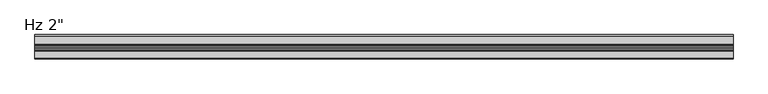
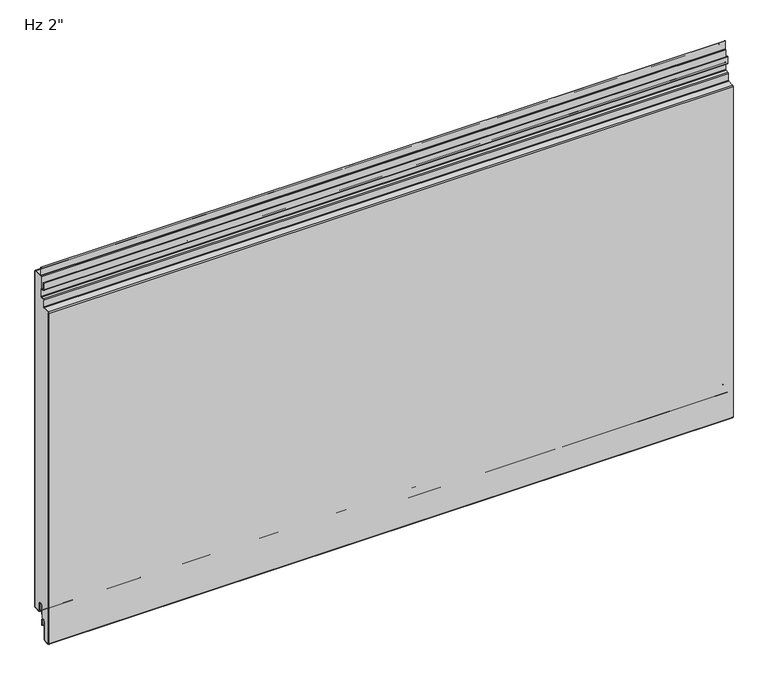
"""IFC4 building model written with IfcOpenShell, lengths in millimetres: plate geometry."""

from ifc_helpers import new_model, si_unit, point, frame, frame_2d, origin, place, context, project, spatial, polyline, circle_curve, ellipse_curve, trimmed, segment, composite_curve, outline, extrude, source, transform, mapped, element, save
from ifc_brep_helpers import plane_surface, cylinder_surface, revolved_surface, extruded_surface, advanced_brep


def plate_48900397(model_context):
    return source(origin(), model_context, "Body", "SolidModel", [
        extrude(outline(composite_curve([segment(polyline([(-22.8125, 717.1620957), (-22.8125, 760.40625), (-2.38125, 760.40625)]), True, "CONTINUOUS"), segment(trimmed(circle_curve(frame_2d((-2.38125, 759.025)), 1.38125), [point((-2.38125, 760.40625))], [point((-1.0, 759.025))], False, "CARTESIAN"), True, "CONTINUOUS"), segment(polyline([(-1.0, 759.025), (-1.0, 3.375)]), True, "CONTINUOUS"), segment(trimmed(circle_curve(frame_2d((-2.38125, 3.375)), 1.38125), [point((-1.0, 3.375))], [point((-2.38125, 1.99375))], False, "CARTESIAN"), True, "CONTINUOUS"), segment(polyline([(-2.38125, 1.99375), (-15.08125, 1.99375)]), True, "CONTINUOUS"), segment(trimmed(circle_curve(frame_2d((-15.08125, 3.375)), 1.38125), [point((-15.08125, 1.99375))], [point((-16.4625, 3.375))], False, "CARTESIAN"), True, "CONTINUOUS"), segment(polyline([(-16.4625, 3.375), (-16.4625, 19.25)]), True, "CONTINUOUS"), segment(trimmed(circle_curve(frame_2d((-21.43125, 19.25)), 4.96875), [point((-16.4625, 19.25))], [point((-26.4, 19.25))], True, "CARTESIAN"), True, "CONTINUOUS"), segment(polyline([(-26.4, 19.25), (-26.4, -6.7375), (-30.95625, -6.7375)]), True, "CONTINUOUS"), segment(trimmed(circle_curve(frame_2d((-30.95625, -11.70625)), 4.96875), [point((-30.95625, -6.7375))], [point((-35.925, -11.70625))], True, "CARTESIAN"), True, "CONTINUOUS"), segment(polyline([(-35.925, -11.70625), (-35.925, -49.8895546)]), True, "CONTINUOUS"), segment(trimmed(circle_curve(frame_2d((-37.30625, -49.8895546)), 1.38125), [point((-35.925, -49.8895546))], [point((-37.233961, -51.2689117))], False, "CARTESIAN"), True, "CONTINUOUS"), segment(polyline([(-37.233961, -51.2689117), (-48.346461, -51.8512931)]), True, "CONTINUOUS"), segment(trimmed(circle_curve(frame_2d((-48.41875, -50.4719361)), 1.38125), [point((-48.346461, -51.8512931))], [point((-49.8, -50.4719361))], False, "CARTESIAN"), True, "CONTINUOUS"), segment(polyline([(-49.8, -50.4719361), (-49.8, 694.0447607)]), True, "CONTINUOUS"), segment(trimmed(circle_curve(frame_2d((-48.41875, 694.0447607)), 1.38125), [point((-49.8, 694.0447607))], [point((-48.491039, 695.4241177))], False, "CARTESIAN"), True, "CONTINUOUS"), segment(polyline([(-48.491039, 695.4241177), (-34.7895807, 696.1421807)]), True, "CONTINUOUS"), segment(trimmed(circle_curve(frame_2d((-34.925, 698.7261347)), 2.5875), [point((-34.7895807, 696.1421807))], [point((-32.3375, 698.7261347))], True, "CARTESIAN"), True, "CONTINUOUS"), segment(polyline([(-32.3375, 698.7261347), (-32.3375, 712.8967085)]), True, "CONTINUOUS"), segment(trimmed(circle_curve(frame_2d((-30.95625, 712.8967085)), 1.38125), [point((-32.3375, 712.8967085))], [point((-31.028539, 714.2760655))], False, "CARTESIAN"), True, "CONTINUOUS"), segment(polyline([(-31.028539, 714.2760655), (-25.2645807, 714.5781418)]), True, "CONTINUOUS"), segment(trimmed(circle_curve(frame_2d((-25.4, 717.1620957)), 2.5875), [point((-25.2645807, 714.5781418))], [point((-22.8125, 717.1620957))], True, "CARTESIAN"), True, "CONTINUOUS")], self_intersect=False)), frame((-730.0, 0.0, 0.0), z_axis=(1.0, 0.0, 0.0), x_axis=(0.0, 1.0, 0.0)), (0.0, 0.0, 1.0), 1460.0),
        extrude(outline(composite_curve([segment(polyline([(-25.4, 0.99375), (-26.4, 0.99375), (-26.4, 19.25)]), True, "CONTINUOUS"), segment(trimmed(circle_curve(frame_2d((-21.43125, 19.25)), 4.96875), [point((-26.4, 19.25))], [point((-16.4625, 19.25))], False, "CARTESIAN"), True, "CONTINUOUS"), segment(polyline([(-16.4625, 19.25), (-16.4625, 3.375)]), True, "CONTINUOUS"), segment(trimmed(circle_curve(frame_2d((-15.08125, 3.375)), 1.38125), [point((-16.4625, 3.375))], [point((-15.08125, 1.99375))], True, "CARTESIAN"), True, "CONTINUOUS"), segment(polyline([(-15.08125, 1.99375), (-2.38125, 1.99375)]), True, "CONTINUOUS"), segment(trimmed(circle_curve(frame_2d((-2.38125, 3.375)), 1.38125), [point((-2.38125, 1.99375))], [point((-1.0, 3.375))], True, "CARTESIAN"), True, "CONTINUOUS"), segment(polyline([(-1.0, 3.375), (-1.0, 759.025)]), True, "CONTINUOUS"), segment(trimmed(circle_curve(frame_2d((-2.38125, 759.025)), 1.38125), [point((-1.0, 759.025))], [point((-2.38125, 760.40625))], True, "CARTESIAN"), True, "CONTINUOUS"), segment(polyline([(-2.38125, 760.40625), (-19.446875, 760.40625)]), True, "CONTINUOUS"), segment(trimmed(circle_curve(frame_2d((-19.446875, 762.99375)), 2.5875), [point((-19.446875, 760.40625))], [point((-22.034375, 762.99375))], False, "CARTESIAN"), True, "CONTINUOUS"), segment(polyline([(-22.034375, 762.99375), (-22.034375, 780.45625), (-21.034375, 780.45625), (-21.034375, 762.99375)]), True, "CONTINUOUS"), segment(trimmed(circle_curve(frame_2d((-19.446875, 762.99375)), 1.5875), [point((-21.034375, 762.99375))], [point((-19.446875, 761.40625))], True, "CARTESIAN"), True, "CONTINUOUS"), segment(polyline([(-19.446875, 761.40625), (-2.38125, 761.40625)]), True, "CONTINUOUS"), segment(trimmed(circle_curve(frame_2d((-2.38125, 759.025)), 2.38125), [point((-2.38125, 761.40625))], [point((0.0, 759.025))], False, "CARTESIAN"), True, "CONTINUOUS"), segment(polyline([(0.0, 759.025), (0.0, 3.375)]), True, "CONTINUOUS"), segment(trimmed(circle_curve(frame_2d((-2.38125, 3.375)), 2.38125), [point((0.0, 3.375))], [point((-2.38125, 0.99375))], False, "CARTESIAN"), True, "CONTINUOUS"), segment(polyline([(-2.38125, 0.99375), (-15.08125, 0.99375)]), True, "CONTINUOUS"), segment(trimmed(circle_curve(frame_2d((-15.08125, 3.375)), 2.38125), [point((-15.08125, 0.99375))], [point((-17.4625, 3.375))], False, "CARTESIAN"), True, "CONTINUOUS"), segment(polyline([(-17.4625, 3.375), (-17.4625, 19.25)]), True, "CONTINUOUS"), segment(trimmed(circle_curve(frame_2d((-21.43125, 19.25)), 3.96875), [point((-17.4625, 19.25))], [point((-25.4, 19.25))], True, "CARTESIAN"), True, "CONTINUOUS"), segment(polyline([(-25.4, 19.25), (-25.4, 0.99375)]), True, "CONTINUOUS")], self_intersect=False)), frame((-730.0, 0.0, 0.0), z_axis=(1.0, 0.0, 0.0), x_axis=(0.0, 1.0, 0.0)), (0.0, 0.0, 1.0), 1460.0),
        advanced_brep(
        [(-730.0, -25.4, -23.0314549), (-730.0, -26.9875, -23.0314549), (-730.0, -26.9875, -11.7205174), (-730.0, -34.925, -11.7205174), (-730.0, -34.925, -49.9038221), (-730.0, -37.181625, -52.2818086), (-730.0, -48.294125, -52.8641901), (-730.0, -50.8, -50.4862035), (-730.0, -50.8, 694.0447607), (-730.0, -48.543375, 696.4227473), (-730.0, -34.8419167, 697.1408103), (-730.0, -33.3375, 698.7261347), (-730.0, -33.3375, 712.8824411), (-730.0, -31.080875, 715.2604276), (-730.0, -25.3169167, 715.5625039), (-730.0, -23.8125, 717.1478283), (-730.0, -23.8125, 732.0232326), (-730.0, -25.4, 733.6107326), (-730.0, -29.5671875, 733.6107326), (-730.0, -31.9484375, 735.9919826), (-730.0, -31.9484375, 750.4836032), (-730.0, -30.1546875, 750.4836032), (-730.0, -30.1546875, 740.7544826), (-730.0, -30.9484375, 740.7544826), (-730.0, -30.9484375, 735.9919826), (-730.0, -29.5671875, 734.6107326), (-730.0, -25.4, 734.6107326), (-730.0, -22.8125, 732.0232326), (-730.0, -22.8125, 717.1478283), (-730.0, -25.2645807, 714.5638744), (-730.0, -31.028539, 714.2617981), (-730.0, -32.3375, 712.8824411), (-730.0, -32.3375, 698.7261347), (-730.0, -34.7895807, 696.1421807), (-730.0, -48.491039, 695.4241177), (-730.0, -49.8, 694.0447607), (-730.0, -49.8, -50.4862035), (-730.0, -48.346461, -51.8655606), (-730.0, -37.233961, -51.2831791), (-730.0, -35.925, -49.9038221), (-730.0, -35.925, -11.7205174), (-730.0, -25.9875, -11.7205174), (-730.0, -26.19375, -13.3080174), (-730.0, -25.4, -13.3080174), (730.0, -25.4, -23.0314549), (730.0, -25.4, -13.3080174), (730.0, -26.19375, -13.3080174), (730.0, -25.9875, -11.7205174), (730.0, -35.925, -11.7205174), (730.0, -35.925, -49.9038221), (730.0, -37.233961, -51.2831791), (730.0, -48.346461, -51.8655606), (730.0, -49.8, -50.4862035), (730.0, -49.8, 694.0447607), (730.0, -48.491039, 695.4241177), (730.0, -34.7895807, 696.1421807), (730.0, -32.3375, 698.7261347), (730.0, -32.3375, 712.8824411), (730.0, -31.028539, 714.2617981), (730.0, -25.2645807, 714.5638744), (730.0, -22.8125, 717.1478283), (730.0, -22.8125, 732.0232326), (730.0, -25.4, 734.6107326), (730.0, -29.5671875, 734.6107326), (730.0, -30.9484375, 735.9919826), (730.0, -30.9484375, 740.7544826), (730.0, -30.1546875, 740.7544826), (730.0, -30.1546875, 750.4836032), (730.0, -31.9484375, 750.4836032), (730.0, -31.9484375, 735.9919826), (730.0, -29.5671875, 733.6107326), (730.0, -25.4, 733.6107326), (730.0, -23.8125, 732.0232326), (730.0, -23.8125, 717.1478283), (730.0, -25.3169167, 715.5625039), (730.0, -31.080875, 715.2604276), (730.0, -33.3375, 712.8824411), (730.0, -33.3375, 698.7261347), (730.0, -34.8419167, 697.1408103), (730.0, -48.543375, 696.4227473), (730.0, -50.8, 694.0447607), (730.0, -50.8, -50.4862035), (730.0, -48.294125, -52.8641901), (730.0, -37.181625, -52.2818086), (730.0, -34.925, -49.9038221), (730.0, -34.925, -11.7205174), (730.0, -26.9875, -11.7205174), (730.0, -26.9875, -23.0314549)],
        [
            (0, 1, circle_curve(frame((-730.0, -26.19375, -23.0314549), z_axis=(-1.0, 0.0, 0.0), x_axis=(0.0, 0.0, -1.0)), 0.79375)),
            (1, 2),
            (2, 3, circle_curve(frame((-730.0, -30.95625, -11.7205174), z_axis=(1.0, 0.0, 0.0), x_axis=(0.0, 0.0, -1.0)), 3.96875)),
            (3, 4),
            (4, 5, circle_curve(frame((-730.0, -37.30625, -49.9038221), z_axis=(-1.0, 0.0, 0.0), x_axis=(0.0, 0.0, -1.0)), 2.38125)),
            (5, 6),
            (6, 7, circle_curve(frame((-730.0, -48.41875, -50.4862035), z_axis=(-1.0, 0.0, 0.0), x_axis=(0.0, 0.0, -1.0)), 2.38125)),
            (7, 8),
            (8, 9, circle_curve(frame((-730.0, -48.41875, 694.0447607), z_axis=(-1.0, 0.0, 0.0), x_axis=(0.0, 0.0, -1.0)), 2.38125)),
            (9, 10),
            (10, 11, circle_curve(frame((-730.0, -34.925, 698.7261347), z_axis=(1.0, 0.0, 0.0), x_axis=(0.0, 0.0, -1.0)), 1.5875)),
            (11, 12),
            (12, 13, circle_curve(frame((-730.0, -30.95625, 712.8824411), z_axis=(-1.0, 0.0, 0.0), x_axis=(0.0, 0.0, -1.0)), 2.38125)),
            (13, 14),
            (14, 15, circle_curve(frame((-730.0, -25.4, 717.1478283), z_axis=(1.0, 0.0, 0.0), x_axis=(0.0, 0.0, -1.0)), 1.5875)),
            (15, 16),
            (16, 17, circle_curve(frame((-730.0, -25.4, 732.0232326), z_axis=(1.0, 0.0, 0.0), x_axis=(0.0, 0.0, -1.0)), 1.5875)),
            (17, 18),
            (18, 19, circle_curve(frame((-730.0, -29.5671875, 735.9919826), z_axis=(-1.0, 0.0, 0.0), x_axis=(0.0, 0.0, -1.0)), 2.38125)),
            (19, 20),
            (20, 21, ellipse_curve(frame((-730.0, -31.0515625, 750.4836032), z_axis=(-1.0, 0.0, 0.0), x_axis=(0.0, 1.0, 0.0)), 0.896875, 0.7852275)),
            (21, 22),
            (22, 23),
            (23, 24),
            (24, 25, circle_curve(frame((-730.0, -29.5671875, 735.9919826), z_axis=(1.0, 0.0, 0.0), x_axis=(0.0, 0.0, -1.0)), 1.38125)),
            (25, 26),
            (26, 27, circle_curve(frame((-730.0, -25.4, 732.0232326), z_axis=(-1.0, 0.0, 0.0), x_axis=(0.0, 0.0, -1.0)), 2.5875)),
            (27, 28),
            (28, 29, circle_curve(frame((-730.0, -25.4, 717.1478283), z_axis=(-1.0, 0.0, 0.0), x_axis=(0.0, 0.0, -1.0)), 2.5875)),
            (29, 30),
            (30, 31, circle_curve(frame((-730.0, -30.95625, 712.8824411), z_axis=(1.0, 0.0, 0.0), x_axis=(0.0, 0.0, -1.0)), 1.38125)),
            (31, 32),
            (32, 33, circle_curve(frame((-730.0, -34.925, 698.7261347), z_axis=(-1.0, 0.0, 0.0), x_axis=(0.0, 0.0, -1.0)), 2.5875)),
            (33, 34),
            (34, 35, circle_curve(frame((-730.0, -48.41875, 694.0447607), z_axis=(1.0, 0.0, 0.0), x_axis=(0.0, 0.0, -1.0)), 1.38125)),
            (35, 36),
            (36, 37, circle_curve(frame((-730.0, -48.41875, -50.4862035), z_axis=(1.0, 0.0, 0.0), x_axis=(0.0, 0.0, -1.0)), 1.38125)),
            (37, 38),
            (38, 39, circle_curve(frame((-730.0, -37.30625, -49.9038221), z_axis=(1.0, 0.0, 0.0), x_axis=(0.0, 0.0, -1.0)), 1.38125)),
            (39, 40),
            (40, 41, circle_curve(frame((-730.0, -30.95625, -11.7205174), z_axis=(-1.0, 0.0, 0.0), x_axis=(0.0, 0.0, -1.0)), 4.96875)),
            (41, 42),
            (42, 43),
            (43, 0),
            (44, 45),
            (45, 46),
            (46, 47),
            (47, 48, circle_curve(frame((730.0, -30.95625, -11.7205174), z_axis=(1.0, 0.0, 0.0), x_axis=(0.0, 0.0, -1.0)), 4.96875)),
            (48, 49),
            (49, 50, circle_curve(frame((730.0, -37.30625, -49.9038221), z_axis=(-1.0, 0.0, 0.0), x_axis=(0.0, 0.0, -1.0)), 1.38125)),
            (50, 51),
            (51, 52, circle_curve(frame((730.0, -48.41875, -50.4862035), z_axis=(-1.0, 0.0, 0.0), x_axis=(0.0, 0.0, -1.0)), 1.38125)),
            (52, 53),
            (53, 54, circle_curve(frame((730.0, -48.41875, 694.0447607), z_axis=(-1.0, 0.0, 0.0), x_axis=(0.0, 0.0, -1.0)), 1.38125)),
            (54, 55),
            (55, 56, circle_curve(frame((730.0, -34.925, 698.7261347), z_axis=(1.0, 0.0, 0.0), x_axis=(0.0, 0.0, -1.0)), 2.5875)),
            (56, 57),
            (57, 58, circle_curve(frame((730.0, -30.95625, 712.8824411), z_axis=(-1.0, 0.0, 0.0), x_axis=(0.0, 0.0, -1.0)), 1.38125)),
            (58, 59),
            (59, 60, circle_curve(frame((730.0, -25.4, 717.1478283), z_axis=(1.0, 0.0, 0.0), x_axis=(0.0, 0.0, -1.0)), 2.5875)),
            (60, 61),
            (61, 62, circle_curve(frame((730.0, -25.4, 732.0232326), z_axis=(1.0, 0.0, 0.0), x_axis=(0.0, 0.0, -1.0)), 2.5875)),
            (62, 63),
            (63, 64, circle_curve(frame((730.0, -29.5671875, 735.9919826), z_axis=(-1.0, 0.0, 0.0), x_axis=(0.0, 0.0, -1.0)), 1.38125)),
            (64, 65),
            (65, 66),
            (66, 67),
            (67, 68, ellipse_curve(frame((730.0, -31.0515625, 750.4836032), z_axis=(1.0, 0.0, 0.0), x_axis=(0.0, 1.0, 0.0)), 0.896875, 0.7852275)),
            (68, 69),
            (69, 70, circle_curve(frame((730.0, -29.5671875, 735.9919826), z_axis=(1.0, 0.0, 0.0), x_axis=(0.0, 0.0, -1.0)), 2.38125)),
            (70, 71),
            (71, 72, circle_curve(frame((730.0, -25.4, 732.0232326), z_axis=(-1.0, 0.0, 0.0), x_axis=(0.0, 0.0, -1.0)), 1.5875)),
            (72, 73),
            (73, 74, circle_curve(frame((730.0, -25.4, 717.1478283), z_axis=(-1.0, 0.0, 0.0), x_axis=(0.0, 0.0, -1.0)), 1.5875)),
            (74, 75),
            (75, 76, circle_curve(frame((730.0, -30.95625, 712.8824411), z_axis=(1.0, 0.0, 0.0), x_axis=(0.0, 0.0, -1.0)), 2.38125)),
            (76, 77),
            (77, 78, circle_curve(frame((730.0, -34.925, 698.7261347), z_axis=(-1.0, 0.0, 0.0), x_axis=(0.0, 0.0, -1.0)), 1.5875)),
            (78, 79),
            (79, 80, circle_curve(frame((730.0, -48.41875, 694.0447607), z_axis=(1.0, 0.0, 0.0), x_axis=(0.0, 0.0, -1.0)), 2.38125)),
            (80, 81),
            (81, 82, circle_curve(frame((730.0, -48.41875, -50.4862035), z_axis=(1.0, 0.0, 0.0), x_axis=(0.0, 0.0, -1.0)), 2.38125)),
            (82, 83),
            (83, 84, circle_curve(frame((730.0, -37.30625, -49.9038221), z_axis=(1.0, 0.0, 0.0), x_axis=(0.0, 0.0, -1.0)), 2.38125)),
            (84, 85),
            (85, 86, circle_curve(frame((730.0, -30.95625, -11.7205174), z_axis=(-1.0, 0.0, 0.0), x_axis=(0.0, 0.0, -1.0)), 3.96875)),
            (86, 87),
            (87, 44, circle_curve(frame((730.0, -26.19375, -23.0314549), z_axis=(1.0, 0.0, 0.0), x_axis=(0.0, 0.0, -1.0)), 0.79375)),
            (36, 52),
            (51, 37),
            (50, 38),
            (49, 39),
            (48, 40),
            (47, 41),
            (42, 46),
            (45, 43),
            (22, 66),
            (65, 23),
            (21, 67),
            (20, 68),
            (34, 54),
            (53, 35),
            (32, 56),
            (55, 33),
            (30, 58),
            (57, 31),
            (28, 60),
            (59, 29),
            (24, 64),
            (63, 25),
            (26, 62),
            (61, 27),
            (19, 69),
            (17, 71),
            (70, 18),
            (15, 73),
            (72, 16),
            (13, 75),
            (74, 14),
            (11, 77),
            (76, 12),
            (9, 79),
            (78, 10),
            (7, 81),
            (80, 8),
            (5, 83),
            (82, 6),
            (3, 85),
            (84, 4),
            (1, 87),
            (86, 2),
            (44, 0),
        ],
        [
            plane_surface(frame((-730.0, -50.8, 381.2), z_axis=(-1.0, 0.0, 0.0), x_axis=(0.0, -1.0, 0.0))),
            plane_surface(frame((730.0, -50.8, 381.2), z_axis=(1.0, 0.0, 0.0), x_axis=(0.0, -1.0, 0.0))),
            revolved_surface(polyline([(730.0, -48.41875, -51.8674535), (-730.0, -48.41875, -51.8674535)]), (-730.0, -48.41875, -50.4862035), (1.0, 0.0, 0.0)),
            plane_surface(frame((-730.0, -37.233961, -51.2831791), z_axis=(0.0, -0.05233595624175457, 0.9986295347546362), x_axis=(1.0, 0.0, 0.0))),
            revolved_surface(polyline([(730.0, -37.30625, -51.2850721), (-730.0, -37.30625, -51.2850721)]), (-730.0, -37.30625, -49.9038221), (1.0, 0.0, 0.0)),
            plane_surface(frame((-730.0, -35.925, -11.7205174), z_axis=(0.0, -1.0, 0.0), x_axis=(1.0, 0.0, 0.0))),
            cylinder_surface(frame((-730.0, -30.95625, -11.7205174), z_axis=(-1.0, 0.0, 0.0), x_axis=(0.0, 0.0, -1.0)), 4.96875),
            plane_surface(frame((-730.0, -25.4, -13.3080174), z_axis=(0.0, 0.0, 1.0), x_axis=(1.0, 0.0, 0.0))),
            plane_surface(frame((-730.0, -26.19375, -13.3080174), z_axis=(0.0, 0.9916655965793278, -0.12883844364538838), x_axis=(1.0, 0.0, 0.0))),
            plane_surface(frame((-730.0, -30.9484375, 740.7544826), z_axis=(0.0, 0.0, -1.0), x_axis=(1.0, 0.0, 0.0))),
            plane_surface(frame((-730.0, -30.1546875, 740.7544826), z_axis=(0.0, 1.0, 0.0), x_axis=(1.0, 0.0, 0.0))),
            extruded_surface(trimmed(ellipse_curve(frame((-730.0, -31.0515625, 750.4836032), z_axis=(1.0, 0.0, 0.0), x_axis=(0.0, 1.0, 0.0)), 0.896875, 0.7852275), [point((-730.0, -30.1546875, 750.4836032))], [point((-730.0, -31.9484375, 750.4836032))], True, "CARTESIAN"), (1460.0, 0.0, 0.0), 1460.0),
            revolved_surface(polyline([(730.0, -48.41875, 692.6635107), (-730.0, -48.41875, 692.6635107)]), (-730.0, -48.41875, 694.0447607), (1.0, 0.0, 0.0)),
            cylinder_surface(frame((-730.0, -34.925, 698.7261347), z_axis=(-1.0, 0.0, 0.0), x_axis=(0.0, 0.0, -1.0)), 2.5875),
            plane_surface(frame((-730.0, -48.491039, 695.4241177), z_axis=(0.0, 0.05233595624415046, -0.9986295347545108), x_axis=(1.0, 0.0, 0.0))),
            plane_surface(frame((-730.0, -49.8, -50.4862035), z_axis=(0.0, 1.0, 0.0), x_axis=(1.0, 0.0, 0.0))),
            revolved_surface(polyline([(730.0, -30.95625, 711.5011911), (-730.0, -30.95625, 711.5011911)]), (-730.0, -30.95625, 712.8824411), (1.0, 0.0, 0.0)),
            cylinder_surface(frame((-730.0, -25.4, 717.1478283), z_axis=(-1.0, 0.0, 0.0), x_axis=(0.0, 0.0, -1.0)), 2.5875),
            plane_surface(frame((-730.0, -31.028539, 714.2617981), z_axis=(0.0, 0.052335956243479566, -0.9986295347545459), x_axis=(1.0, 0.0, 0.0))),
            plane_surface(frame((-730.0, -32.3375, 698.7261347), z_axis=(0.0, 1.0, 0.0), x_axis=(1.0, 0.0, 0.0))),
            revolved_surface(polyline([(730.0, -29.5671875, 734.6107326), (-730.0, -29.5671875, 734.6107326)]), (-730.0, -29.5671875, 735.9919826), (1.0, 0.0, 0.0)),
            cylinder_surface(frame((-730.0, -25.4, 732.0232326), z_axis=(-1.0, 0.0, 0.0), x_axis=(0.0, 0.0, -1.0)), 2.5875),
            plane_surface(frame((-730.0, -25.4, 734.6107326), z_axis=(0.0, 0.0, 1.0), x_axis=(1.0, 0.0, 0.0))),
            plane_surface(frame((-730.0, -30.9484375, 735.9919826), z_axis=(0.0, 1.0, 0.0), x_axis=(1.0, 0.0, 0.0))),
            plane_surface(frame((-730.0, -31.9484375, 750.4836032), z_axis=(0.0, -1.0, 0.0), x_axis=(1.0, 0.0, 0.0))),
            plane_surface(frame((-730.0, -29.5671875, 733.6107326), z_axis=(0.0, 0.0, -1.0), x_axis=(1.0, 0.0, 0.0))),
            cylinder_surface(frame((-730.0, -29.5671875, 735.9919826), z_axis=(-1.0, 0.0, 0.0), x_axis=(0.0, 0.0, -1.0)), 2.38125),
            plane_surface(frame((-730.0, -22.8125, 717.1478283), z_axis=(0.0, 1.0, 0.0), x_axis=(1.0, 0.0, 0.0))),
            plane_surface(frame((-730.0, -23.8125, 732.0232326), z_axis=(0.0, -1.0, 0.0), x_axis=(1.0, 0.0, 0.0))),
            plane_surface(frame((-730.0, -25.3169167, 715.5625039), z_axis=(0.0, -0.05233595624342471, 0.9986295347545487), x_axis=(1.0, 0.0, 0.0))),
            revolved_surface(polyline([(730.0, -25.4, 715.5603283), (-730.0, -25.4, 715.5603283)]), (-730.0, -25.4, 717.1478283), (1.0, 0.0, 0.0)),
            revolved_surface(polyline([(730.0, -25.4, 730.4357326), (-730.0, -25.4, 730.4357326)]), (-730.0, -25.4, 732.0232326), (1.0, 0.0, 0.0)),
            plane_surface(frame((-730.0, -33.3375, 712.8824411), z_axis=(0.0, -1.0, 0.0), x_axis=(1.0, 0.0, 0.0))),
            plane_surface(frame((-730.0, -34.8419167, 697.1408103), z_axis=(0.0, -0.0523359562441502, 0.9986295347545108), x_axis=(1.0, 0.0, 0.0))),
            revolved_surface(polyline([(730.0, -34.925, 697.1386347), (-730.0, -34.925, 697.1386347)]), (-730.0, -34.925, 698.7261347), (1.0, 0.0, 0.0)),
            cylinder_surface(frame((-730.0, -30.95625, 712.8824411), z_axis=(-1.0, 0.0, 0.0), x_axis=(0.0, 0.0, -1.0)), 2.38125),
            plane_surface(frame((-730.0, -50.8, 694.0447607), z_axis=(0.0, -1.0, 0.0), x_axis=(1.0, 0.0, 0.0))),
            plane_surface(frame((-730.0, -48.294125, -52.8641901), z_axis=(0.0, 0.05233595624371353, -0.9986295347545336), x_axis=(1.0, 0.0, 0.0))),
            cylinder_surface(frame((-730.0, -48.41875, -50.4862035), z_axis=(-1.0, 0.0, 0.0), x_axis=(0.0, 0.0, -1.0)), 2.38125),
            cylinder_surface(frame((-730.0, -48.41875, 694.0447607), z_axis=(-1.0, 0.0, 0.0), x_axis=(0.0, 0.0, -1.0)), 2.38125),
            plane_surface(frame((-730.0, -34.925, -49.9038221), z_axis=(0.0, 1.0, 0.0), x_axis=(1.0, 0.0, 0.0))),
            plane_surface(frame((-730.0, -26.9875, -11.7205174), z_axis=(0.0, -1.0, 0.0), x_axis=(1.0, 0.0, 0.0))),
            revolved_surface(polyline([(730.0, -30.95625, -15.6892674), (-730.0, -30.95625, -15.6892674)]), (-730.0, -30.95625, -11.7205174), (1.0, 0.0, 0.0)),
            cylinder_surface(frame((-730.0, -37.30625, -49.9038221), z_axis=(-1.0, 0.0, 0.0), x_axis=(0.0, 0.0, -1.0)), 2.38125),
            plane_surface(frame((-730.0, -25.4, -23.0314549), z_axis=(0.0, 1.0, 0.0), x_axis=(1.0, 0.0, 0.0))),
            cylinder_surface(frame((-730.0, -26.19375, -23.0314549), z_axis=(-1.0, 0.0, 0.0), x_axis=(0.0, 0.0, -1.0)), 0.79375),
        ],
        [
            (0, [[1, 2, 3, 4, 5, 6, 7, 8, 9, 10, 11, 12, 13, 14, 15, 16, 17, 18, 19, 20, 21, 22, 23, 24, 25, 26, 27, 28, 29, 30, 31, 32, 33, 34, 35, 36, 37, 38, 39, 40, 41, 42, 43, 44]]),
            (1, [[45, 46, 47, 48, 49, 50, 51, 52, 53, 54, 55, 56, 57, 58, 59, 60, 61, 62, 63, 64, 65, 66, 67, 68, 69, 70, 71, 72, 73, 74, 75, 76, 77, 78, 79, 80, 81, 82, 83, 84, 85, 86, 87, 88]]),
            (2, [[89, -52, 90, -37]]),
            (3, [[-90, -51, 91, -38]]),
            (4, [[-91, -50, 92, -39]]),
            (5, [[-92, -49, 93, -40]]),
            (6, [[-93, -48, 94, -41]]),
            (7, [[95, -46, 96, -43]]),
            (8, [[-94, -47, -95, -42]]),
            (9, [[97, -66, 98, -23]]),
            (10, [[99, -67, -97, -22]]),
            (11, [[100, -68, -99, -21]]),
            (12, [[101, -54, 102, -35]]),
            (13, [[103, -56, 104, -33]]),
            (14, [[-104, -55, -101, -34]]),
            (15, [[-102, -53, -89, -36]]),
            (16, [[105, -58, 106, -31]]),
            (17, [[107, -60, 108, -29]]),
            (18, [[-108, -59, -105, -30]]),
            (19, [[-106, -57, -103, -32]]),
            (20, [[109, -64, 110, -25]]),
            (21, [[111, -62, 112, -27]]),
            (22, [[-110, -63, -111, -26]]),
            (23, [[-98, -65, -109, -24]]),
            (24, [[113, -69, -100, -20]]),
            (25, [[114, -71, 115, -18]]),
            (26, [[-115, -70, -113, -19]]),
            (27, [[-112, -61, -107, -28]]),
            (28, [[116, -73, 117, -16]]),
            (29, [[118, -75, 119, -14]]),
            (30, [[-119, -74, -116, -15]]),
            (31, [[-117, -72, -114, -17]]),
            (32, [[120, -77, 121, -12]]),
            (33, [[122, -79, 123, -10]]),
            (34, [[-123, -78, -120, -11]]),
            (35, [[-121, -76, -118, -13]]),
            (36, [[124, -81, 125, -8]]),
            (37, [[126, -83, 127, -6]]),
            (38, [[-127, -82, -124, -7]]),
            (39, [[-125, -80, -122, -9]]),
            (40, [[128, -85, 129, -4]]),
            (41, [[130, -87, 131, -2]]),
            (42, [[-131, -86, -128, -3]]),
            (43, [[-129, -84, -126, -5]]),
            (44, [[-96, -45, 132, -44]]),
            (45, [[-132, -88, -130, -1]]),
        ],
    ),
    ])


if __name__ == "__main__":
    model = new_model("IFC4")
    model_context = context("Model", 3, world=origin())
    ifc_project = project(units=[si_unit("LENGTHUNIT", "METRE", prefix="MILLI")], contexts=[model_context])
    site = spatial("IfcSite", under=ifc_project)
    building = spatial("IfcBuilding", under=site)
    placement = place(None, origin())
    plate_shape = plate_48900397(model_context)
    element("IfcPlate", 1, ObjectType="KIP-30-DWHR-R19-CP-Hz-F : Hz 2\"", at=placement, inside=building, context=model_context, shape_type="MappedRepresentation", body=[
        mapped(plate_shape, transform((0.0, 0.0, 0.0), x_axis=(1.0, 0.0, 0.0), y_axis=(0.0, 1.0, 0.0), z_axis=(0.0, 0.0, 1.0))),
    ])
    save(model, "model.ifc")
